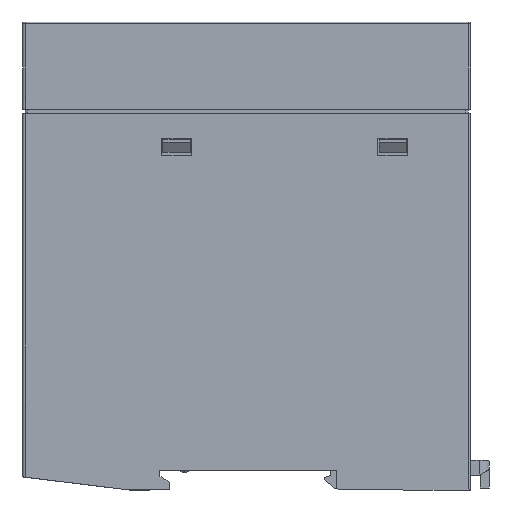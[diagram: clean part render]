
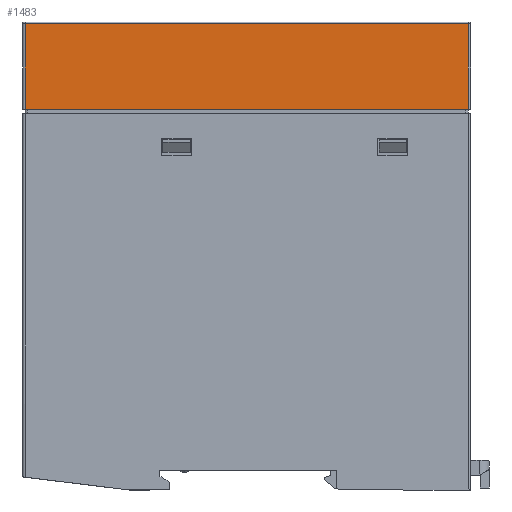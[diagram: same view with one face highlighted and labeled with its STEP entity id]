
A CAD part, left-side view. The second image highlights one B-rep face of the part: STEP entity #1483.
In plain terms, the highlighted planar face has unit normal (-1, 0, 0).
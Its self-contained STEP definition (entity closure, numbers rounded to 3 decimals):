
#1483 = ADVANCED_FACE ( 'NONE', ( #12390 ), #7861, .T. ) ;
#1879 = ORIENTED_EDGE ( 'NONE', *, *, #38339, .T. ) ;
#2672 = EDGE_CURVE ( 'NONE', #9729, #17987, #48489, .T. ) ;
#2979 = DIRECTION ( 'NONE',  ( 0., 0., 1. ) ) ;
#4506 = VECTOR ( 'NONE', #34190, 1000. ) ;
#7759 = DIRECTION ( 'NONE',  ( 0., 1., 0. ) ) ;
#7861 = PLANE ( 'NONE',  #43055 ) ;
#8296 = VERTEX_POINT ( 'NONE', #20133 ) ;
#9600 = ORIENTED_EDGE ( 'NONE', *, *, #25900, .F. ) ;
#9729 = VERTEX_POINT ( 'NONE', #28892 ) ;
#11066 = CARTESIAN_POINT ( 'NONE',  ( -62.305, 7.139, 80.462 ) ) ;
#12390 = FACE_OUTER_BOUND ( 'NONE', #39173, .T. ) ;
#14699 = ORIENTED_EDGE ( 'NONE', *, *, #38922, .T. ) ;
#14776 = LINE ( 'NONE', #26109, #49184 ) ;
#15389 = CARTESIAN_POINT ( 'NONE',  ( -62.305, -37.361, 63.192 ) ) ;
#17987 = VERTEX_POINT ( 'NONE', #19712 ) ;
#19712 = CARTESIAN_POINT ( 'NONE',  ( -62.305, -37.361, 80.462 ) ) ;
#20133 = CARTESIAN_POINT ( 'NONE',  ( -62.305, 51.639, 63.192 ) ) ;
#23221 = VERTEX_POINT ( 'NONE', #31729 ) ;
#23479 = DIRECTION ( 'NONE',  ( 0., 0., 1. ) ) ;
#23905 = ORIENTED_EDGE ( 'NONE', *, *, #2672, .T. ) ;
#25900 = EDGE_CURVE ( 'NONE', #9729, #8296, #14776, .T. ) ;
#26109 = CARTESIAN_POINT ( 'NONE',  ( -62.305, 7.139, 63.192 ) ) ;
#27852 = VECTOR ( 'NONE', #2979, 1000. ) ;
#28892 = CARTESIAN_POINT ( 'NONE',  ( -62.305, -37.361, 63.192 ) ) ;
#31004 = VECTOR ( 'NONE', #34370, 1000. ) ;
#31729 = CARTESIAN_POINT ( 'NONE',  ( -62.305, 51.639, 80.462 ) ) ;
#34190 = DIRECTION ( 'NONE',  ( 0., 1., 0. ) ) ;
#34370 = DIRECTION ( 'NONE',  ( 0., 0., -1. ) ) ;
#37430 = CARTESIAN_POINT ( 'NONE',  ( -62.305, -37.361, 71.827 ) ) ;
#38133 = CARTESIAN_POINT ( 'NONE',  ( -62.305, 51.639, 71.827 ) ) ;
#38339 = EDGE_CURVE ( 'NONE', #23221, #8296, #42665, .T. ) ;
#38922 = EDGE_CURVE ( 'NONE', #17987, #23221, #41718, .T. ) ;
#39173 = EDGE_LOOP ( 'NONE', ( #23905, #14699, #1879, #9600 ) ) ;
#41718 = LINE ( 'NONE', #11066, #4506 ) ;
#42665 = LINE ( 'NONE', #38133, #31004 ) ;
#43055 = AXIS2_PLACEMENT_3D ( 'NONE', #15389, #46804, #23479 ) ;
#46804 = DIRECTION ( 'NONE',  ( -1., 0., 0. ) ) ;
#48489 = LINE ( 'NONE', #37430, #27852 ) ;
#49184 = VECTOR ( 'NONE', #7759, 1000. ) ;
